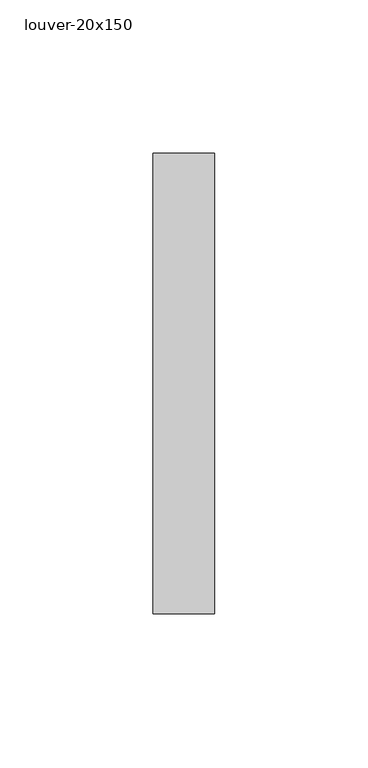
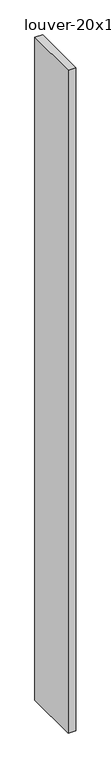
"""IFC4 building model written with IfcOpenShell, lengths in millimetres: member geometry, 長方形マリオン : louver-20x150."""

import ifcopenshell
import ifcopenshell.guid

model = None  # the IFC model being written
_history = None  # IfcOwnerHistory: only IFC2X3 demands one
_inside = {}  # id of a spatial element -> (the spatial element, [elements in it])
_under = {}  # id of a project, library or spatial element -> (it, [spatial elements below it])
_declared = {}  # id of a project -> (the project, [libraries it declares])
_typed = {}  # id of a type object -> (the type object, [elements of that type])
_made_of = {}  # id of a material, layer set ... -> (it, [elements and type objects made of it])


def new_model(schema):
    """Start an empty IFC model of exactly this schema.

    Asked for "IFC4X3", IfcOpenShell would pick the latest addendum, in which some entities
    have other attributes; the version numbers below select the first issue.
    IFC2X3 requires an IfcOwnerHistory on every rooted entity: one is made here for all.
    """
    global model, _history
    if schema == "IFC4X3":
        model = ifcopenshell.file(schema_version=(4, 3, 0, 0))
    else:
        model = ifcopenshell.file(schema=schema)
    _inside.clear()
    _under.clear()
    _declared.clear()
    _typed.clear()
    _made_of.clear()
    _history = None
    if model.schema == "IFC2X3":
        org = make("IfcOrganization", Name="unknown")
        user = make(
            "IfcPersonAndOrganization",
            ThePerson=make("IfcPerson", FamilyName="unknown"),
            TheOrganization=org,
        )
        app = make(
            "IfcApplication",
            ApplicationDeveloper=org,
            Version="unknown",
            ApplicationFullName="unknown",
            ApplicationIdentifier="unknown",
        )
        _history = make(
            "IfcOwnerHistory",
            OwningUser=user,
            OwningApplication=app,
            ChangeAction="ADDED",
            CreationDate=0,
        )
    return model


def make(cls, **values):
    """One entity of the class cls with the attributes given. An attribute that is None is left unset."""
    return model.create_entity(
        cls, **{name: value for name, value in values.items() if value is not None}
    )


def rooted(cls, **values):
    """An entity with a GlobalId (a new one), such as an element, a storey or a relation."""
    return make(cls, GlobalId=ifcopenshell.guid.new(), OwnerHistory=_history, **values)


def si_unit(unit_type, name, prefix=None):
    """IfcSIUnit, for example si_unit("LENGTHUNIT", "METRE", prefix="MILLI")."""
    return make("IfcSIUnit", UnitType=unit_type, Prefix=prefix, Name=name)


def assignment(units):
    """IfcUnitAssignment: the units of a project."""
    return None if units is None else make("IfcUnitAssignment", Units=units)


def point(xyz):
    """IfcCartesianPoint."""
    return None if xyz is None else make("IfcCartesianPoint", Coordinates=xyz)


def direction(xyz):
    """IfcDirection."""
    return None if xyz is None else make("IfcDirection", DirectionRatios=xyz)


def frame(location, z_axis=None, x_axis=None):
    """IfcAxis2Placement3D, a coordinate frame: its origin and axes. An axis left out is left unset."""
    return make(
        "IfcAxis2Placement3D",
        Location=point(location),
        Axis=direction(z_axis),
        RefDirection=direction(x_axis),
    )


def origin():
    """The frame at (0, 0, 0) with its axes left unset."""
    return frame((0.0, 0.0, 0.0))


def place(relative_to, where):
    """IfcLocalPlacement: puts the frame where relative to a parent placement (None: the world)."""
    return make(
        "IfcLocalPlacement", PlacementRelTo=relative_to, RelativePlacement=where
    )


def context(
    kind, dimensions, precision=None, world=None, true_north=None, identifier=None
):
    """IfcGeometricRepresentationContext, for example the 3D "Model" context."""
    return make(
        "IfcGeometricRepresentationContext",
        ContextIdentifier=identifier,
        ContextType=kind,
        CoordinateSpaceDimension=dimensions,
        Precision=precision,
        WorldCoordinateSystem=world,
        TrueNorth=true_north,
    )


def project(units=None, contexts=None):
    """IfcProject with its units and contexts."""
    return rooted(
        "IfcProject",
        Name="project",
        RepresentationContexts=contexts,
        UnitsInContext=assignment(units),
    )


def spatial(cls, under=None, at=None, **own):
    """A site, building, storey or space (cls), placed at a placement, below another one or the project."""
    s = rooted(cls, ObjectPlacement=at, **own)
    if under is not None:
        _under.setdefault(under.id(), (under, []))[1].append(s)
    return s


def polyline(points):
    """IfcPolyline through the points."""
    return make("IfcPolyline", Points=[point(p) for p in points])


def outline(outer, holes=None, kind="AREA"):
    """IfcArbitraryClosedProfileDef: a profile drawn as a closed curve; with holes, ...WithVoids."""
    if holes is None:
        return make("IfcArbitraryClosedProfileDef", ProfileType=kind, OuterCurve=outer)
    return make(
        "IfcArbitraryProfileDefWithVoids",
        ProfileType=kind,
        OuterCurve=outer,
        InnerCurves=holes,
    )


def extrude(swept, where, along, depth):
    """IfcExtrudedAreaSolid: the profile swept, set in the frame where, extruded along a direction by depth."""
    return make(
        "IfcExtrudedAreaSolid",
        SweptArea=swept,
        Position=where,
        ExtrudedDirection=direction(along),
        Depth=depth,
    )


def shape(context_of_items, identifier, shape_type, items):
    """IfcShapeRepresentation: the items that make up one representation, for example the "Body"."""
    return make(
        "IfcShapeRepresentation",
        ContextOfItems=context_of_items,
        RepresentationIdentifier=identifier,
        RepresentationType=shape_type,
        Items=items,
    )


def source(mapping_origin, context_of_items, identifier, shape_type, items):
    """IfcRepresentationMap: a shape defined once, which mapped items show again and again."""
    return make(
        "IfcRepresentationMap",
        MappingOrigin=mapping_origin,
        MappedRepresentation=shape(context_of_items, identifier, shape_type, items),
    )


def transform(
    local_origin,
    x_axis=None,
    y_axis=None,
    z_axis=None,
    scale=None,
    scale2=None,
    scale3=None,
    uniform=True,
):
    """IfcCartesianTransformationOperator3D, or its non-uniform kind. x_axis, y_axis, z_axis: its Axis1, 2, 3."""
    if uniform:
        return make(
            "IfcCartesianTransformationOperator3D",
            Axis1=direction(x_axis),
            Axis2=direction(y_axis),
            LocalOrigin=point(local_origin),
            Scale=scale,
            Axis3=direction(z_axis),
        )
    return make(
        "IfcCartesianTransformationOperator3DnonUniform",
        Axis1=direction(x_axis),
        Axis2=direction(y_axis),
        LocalOrigin=point(local_origin),
        Scale=scale,
        Axis3=direction(z_axis),
        Scale2=scale2,
        Scale3=scale3,
    )


def mapped(mapping_source, mapping_target):
    """IfcMappedItem: shows the shape of a source again, moved by a transform."""
    return make(
        "IfcMappedItem", MappingSource=mapping_source, MappingTarget=mapping_target
    )


def made_of(thing, what):
    """Note that an element or type object is made of a material, layer set ...; save() writes the relation."""
    if what is not None:
        _made_of.setdefault(what.id(), (what, []))[1].append(thing)
    return thing


def element(
    cls,
    number,
    at=None,
    inside=None,
    cuts=None,
    type_object=None,
    material=None,
    context=None,
    identifier="Body",
    shape_type=None,
    held_by="IfcProductDefinitionShape",
    body=None,
    shapes=None,
    **own,
):
    """One element of the class cls, such as IfcWall. Its Tag is "e" and its number.

    at: its placement. inside: the storey or other place that contains it. cuts: it is an
    opening in that element (IfcRelVoidsElement). A single representation is given by context,
    identifier, shape_type and body (its items); several are given by shapes. held_by: the class
    of the entity that holds the representations. save() writes the other relations.
    """
    e = rooted(cls, Tag="e%d" % number, ObjectPlacement=at, **own)
    if body is not None:
        shapes = [shape(context, identifier, shape_type, body)]
    if shapes is not None:
        e.Representation = make(held_by, Representations=shapes)
    if inside is not None:
        _inside.setdefault(inside.id(), (inside, []))[1].append(e)
    if cuts is not None:
        rooted(
            "IfcRelVoidsElement", RelatingBuildingElement=cuts, RelatedOpeningElement=e
        )
    if type_object is not None:
        _typed.setdefault(type_object.id(), (type_object, []))[1].append(e)
    return made_of(e, material)


def aggregate(whole, parts):
    """IfcRelAggregates: a whole, such as a stair, and the parts it consists of."""
    return rooted("IfcRelAggregates", RelatingObject=whole, RelatedObjects=parts)


def save(model, path):
    """Write the relations noted so far, then the file.

    IfcRelAggregates (storeys below a building ...), IfcRelContainedInSpatialStructure (elements
    in a storey), IfcRelDefinesByType, IfcRelAssociatesMaterial and IfcRelDeclares: one each for
    every whole, place, type object, material and project.
    """
    for whole, parts in _under.values():
        aggregate(whole, parts)
    for where, things in _inside.values():
        rooted(
            "IfcRelContainedInSpatialStructure",
            RelatedElements=things,
            RelatingStructure=where,
        )
    for kind, things in _typed.values():
        rooted("IfcRelDefinesByType", RelatedObjects=things, RelatingType=kind)
    for what, things in _made_of.values():
        rooted("IfcRelAssociatesMaterial", RelatedObjects=things, RelatingMaterial=what)
    for by, libraries in _declared.values():
        rooted("IfcRelDeclares", RelatingContext=by, RelatedDefinitions=libraries)
    model.write(path)


def louver_20x150_ac673b6a(model_context):
    return source(origin(), model_context, "Body", "SweptSolid", [
        extrude(outline(polyline([(10.0, 75.0), (10.0, -75.0), (-10.0, -75.0), (-10.0, 75.0), (10.0, 75.0)])), frame((0.0, 0.0, -1833.6217193), z_axis=(0.0, 0.0, 1.0), x_axis=(1.0, 0.0, 0.0)), (0.0, 0.0, 1.0), 1833.6217193),
    ])


if __name__ == "__main__":
    model = new_model("IFC4")
    model_context = context("Model", 3, world=origin())
    ifc_project = project(units=[si_unit("LENGTHUNIT", "METRE", prefix="MILLI")], contexts=[model_context])
    site = spatial("IfcSite", under=ifc_project)
    building = spatial("IfcBuilding", under=site)
    placement = place(None, origin())
    louver_20x150_shape = louver_20x150_ac673b6a(model_context)
    element("IfcMember", 1, ObjectType="長方形マリオン : louver-20x150", at=placement, inside=building, context=model_context, shape_type="MappedRepresentation", body=[
        mapped(louver_20x150_shape, transform((0.0, 0.0, 0.0), x_axis=(1.0, 0.0, 0.0), y_axis=(0.0, 1.0, 0.0), z_axis=(0.0, 0.0, 1.0))),
    ])
    save(model, "model.ifc")
